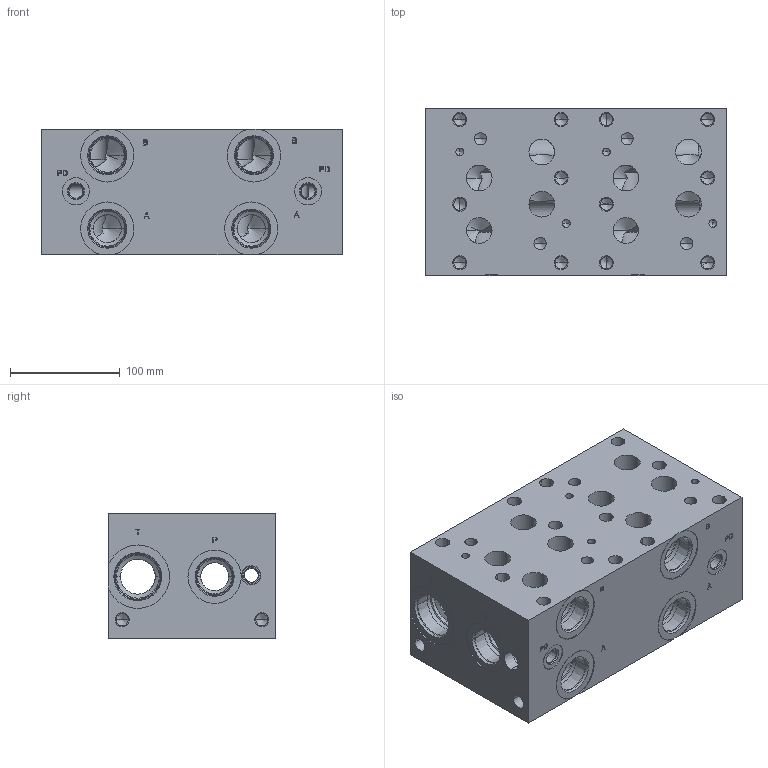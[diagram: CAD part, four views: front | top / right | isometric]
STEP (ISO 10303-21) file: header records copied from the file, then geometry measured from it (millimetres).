
FILE_DESCRIPTION (( 'STEP AP214' ), '1' );
FILE_NAME ('BM-ASP08S5-02-0-Z.STEP', '2020-01-21T14:14:42', ( '' ), ( '' ), 'SwSTEP 2.0', 'SolidWorks 2018', '' );
FILE_SCHEMA (( 'AUTOMOTIVE_DESIGN' ));
Length unit declared in the file: inch
Products named in the file (1): BM-ASP08S5-02-0-Z
Bounding box: 274.57 x 152.4 x 114.3 mm (x, y, z)
Volume: 3889171.2 mm3; surface area: 314760.9 mm2
Topology: 1 solids, 1 shells, 624 faces, 1538 edges, 904 vertices
Faces by surface type: cylinder 208, cone 206, plane 146, bspline 64
Entity records: 27586 total; most frequent: CARTESIAN_POINT 7613, ORIENTED_EDGE 2948, DIRECTION 2836, EDGE_CURVE 1474, AXIS2_PLACEMENT_3D 1019, VERTEX_POINT 904, VECTOR 798, LINE 798
